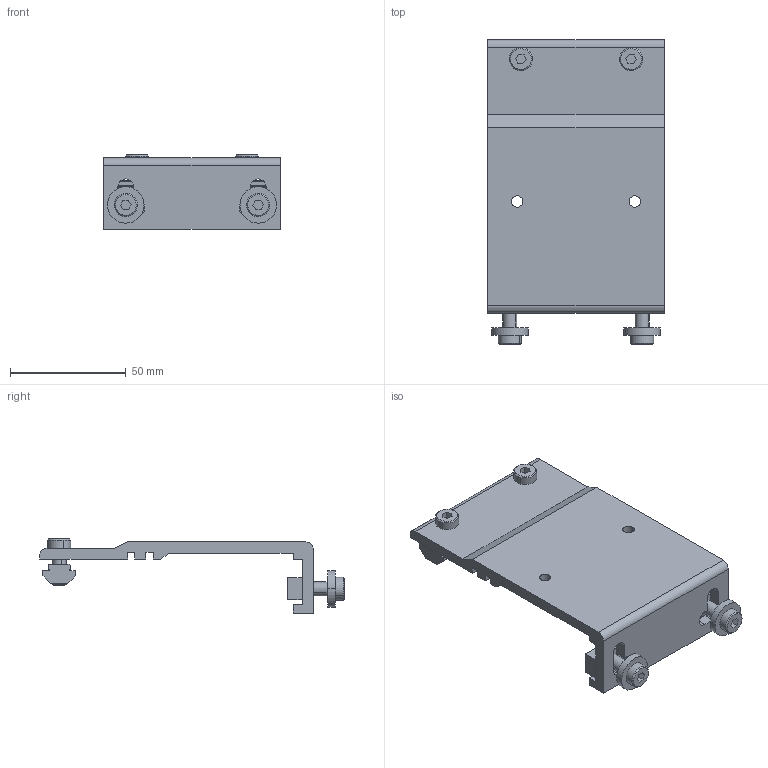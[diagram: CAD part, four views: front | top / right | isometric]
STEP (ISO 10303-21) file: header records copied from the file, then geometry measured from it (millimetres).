
FILE_DESCRIPTION((''),'2;1');
FILE_NAME('202389_ASM','2023-02-27T',('jenni.wallner'),(''),'PRO/ENGINEER BY PARAMETRIC TECHNOLOGY CORPORATION, 2012420','PRO/ENGINEER BY PARAMETRIC TECHNOLOGY CORPORATION, 2012420','');
FILE_SCHEMA(('CONFIG_CONTROL_DESIGN'));
Length unit declared in the file: inch
Products named in the file (8): 9506XXM_950616M; 300150M_300150M; 605279P; 9506XXM_950620M; 202303; 202394; ASM0001_ASM; 202389_ASM
Assembly tree (10 placements, depth 3):
  202389_ASM
    ASM0001_ASM
      9506XXM_950616M  x2
      300150M_300150M
      605279P  x2
      9506XXM_950620M  x2
      202303
      202394
Bounding box: 76.2 x 131.46 x 32.07 mm (x, y, z)
Volume: 68704.8 mm3; surface area: 35070.3 mm2
Topology: 9 solids, 9 shells, 172 faces, 422 edges, 276 vertices
Faces by surface type: plane 96, cylinder 60, cone 16
Entity records: 4270 total; most frequent: DIRECTION 752, CARTESIAN_POINT 711, ORIENTED_EDGE 668, EDGE_CURVE 334, AXIS2_PLACEMENT_3D 261, VECTOR 230, LINE 230, VERTEX_POINT 220
